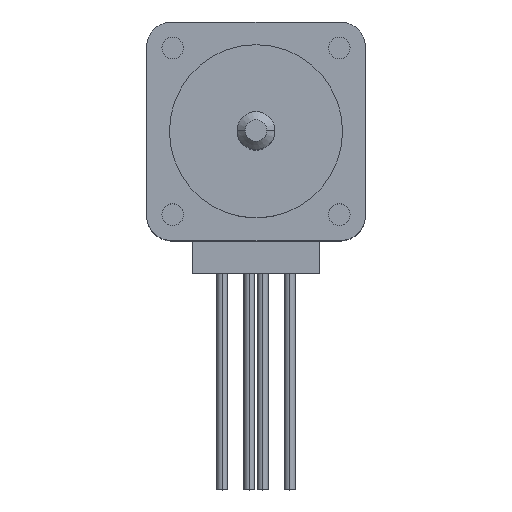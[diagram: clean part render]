
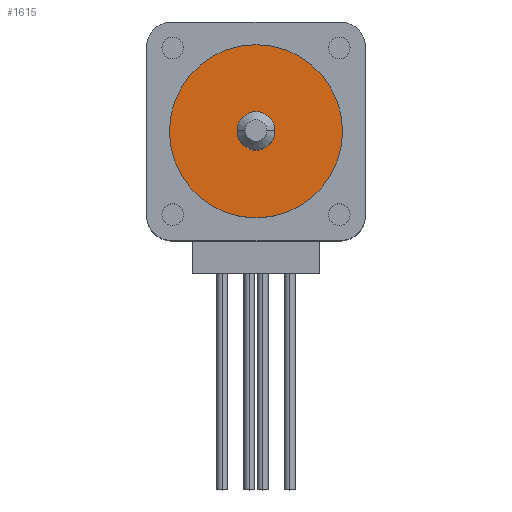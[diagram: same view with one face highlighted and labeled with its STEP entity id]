
A CAD part, top view. The second image highlights one B-rep face of the part: STEP entity #1615.
In plain terms, the highlighted planar face has unit normal (0, 0, 1).
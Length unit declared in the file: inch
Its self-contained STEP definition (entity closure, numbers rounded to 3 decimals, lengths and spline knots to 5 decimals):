
#227 = CIRCLE ( 'NONE', #3718, 0.31496 ) ;
#268 = CARTESIAN_POINT ( 'NONE',  ( 0., 0., 0.05906 ) ) ;
#307 = DIRECTION ( 'NONE',  ( 0., 0., 1. ) ) ;
#438 = EDGE_CURVE ( 'NONE', #2538, #914, #227, .T. ) ;
#445 = AXIS2_PLACEMENT_3D ( 'NONE', #909, #7658, #455 ) ;
#455 = DIRECTION ( 'NONE',  ( 1., 0., 0. ) ) ;
#909 = CARTESIAN_POINT ( 'NONE',  ( 0., 0., 0.05906 ) ) ;
#914 = VERTEX_POINT ( 'NONE', #5422 ) ;
#1001 = DIRECTION ( 'NONE',  ( 1., 0., 0. ) ) ;
#1260 = ORIENTED_EDGE ( 'NONE', *, *, #438, .T. ) ;
#1615 = ADVANCED_FACE ( 'NONE', ( #5905, #6581 ), #5815, .T. ) ;
#1740 = DIRECTION ( 'NONE',  ( 0., 0., 1. ) ) ;
#1810 = VERTEX_POINT ( 'NONE', #2976 ) ;
#1943 = EDGE_CURVE ( 'NONE', #914, #2538, #4542, .T. ) ;
#1991 = CARTESIAN_POINT ( 'NONE',  ( -0.31496, 0., 0.05906 ) ) ;
#2211 = DIRECTION ( 'NONE',  ( 1., 0., 0. ) ) ;
#2300 = DIRECTION ( 'NONE',  ( 1., 0., 0. ) ) ;
#2431 = DIRECTION ( 'NONE',  ( 1., 0., 0. ) ) ;
#2538 = VERTEX_POINT ( 'NONE', #1991 ) ;
#2976 = CARTESIAN_POINT ( 'NONE',  ( 0.0689, 0., 0.05906 ) ) ;
#3679 = CARTESIAN_POINT ( 'NONE',  ( 0., 0., 0.05906 ) ) ;
#3718 = AXIS2_PLACEMENT_3D ( 'NONE', #3679, #307, #1001 ) ;
#3846 = EDGE_CURVE ( 'NONE', #1810, #5249, #4278, .T. ) ;
#4278 = CIRCLE ( 'NONE', #7614, 0.0689 ) ;
#4395 = ORIENTED_EDGE ( 'NONE', *, *, #1943, .T. ) ;
#4542 = CIRCLE ( 'NONE', #445, 0.31496 ) ;
#5033 = EDGE_LOOP ( 'NONE', ( #8705, #7488 ) ) ;
#5156 = AXIS2_PLACEMENT_3D ( 'NONE', #8665, #9299, #2211 ) ;
#5249 = VERTEX_POINT ( 'NONE', #8894 ) ;
#5422 = CARTESIAN_POINT ( 'NONE',  ( 0.31496, 0., 0.05906 ) ) ;
#5815 = PLANE ( 'NONE',  #5156 ) ;
#5905 = FACE_BOUND ( 'NONE', #5033, .T. ) ;
#5985 = EDGE_LOOP ( 'NONE', ( #1260, #4395 ) ) ;
#6581 = FACE_OUTER_BOUND ( 'NONE', #5985, .T. ) ;
#6602 = EDGE_CURVE ( 'NONE', #5249, #1810, #8357, .T. ) ;
#7488 = ORIENTED_EDGE ( 'NONE', *, *, #6602, .F. ) ;
#7614 = AXIS2_PLACEMENT_3D ( 'NONE', #268, #8837, #2431 ) ;
#7658 = DIRECTION ( 'NONE',  ( 0., 0., 1. ) ) ;
#8113 = CARTESIAN_POINT ( 'NONE',  ( 0., 0., 0.05906 ) ) ;
#8357 = CIRCLE ( 'NONE', #8937, 0.0689 ) ;
#8665 = CARTESIAN_POINT ( 'NONE',  ( 0., 0., 0.05906 ) ) ;
#8705 = ORIENTED_EDGE ( 'NONE', *, *, #3846, .F. ) ;
#8837 = DIRECTION ( 'NONE',  ( 0., 0., 1. ) ) ;
#8894 = CARTESIAN_POINT ( 'NONE',  ( -0.0689, 0., 0.05906 ) ) ;
#8937 = AXIS2_PLACEMENT_3D ( 'NONE', #8113, #1740, #2300 ) ;
#9299 = DIRECTION ( 'NONE',  ( 0., 0., 1. ) ) ;
